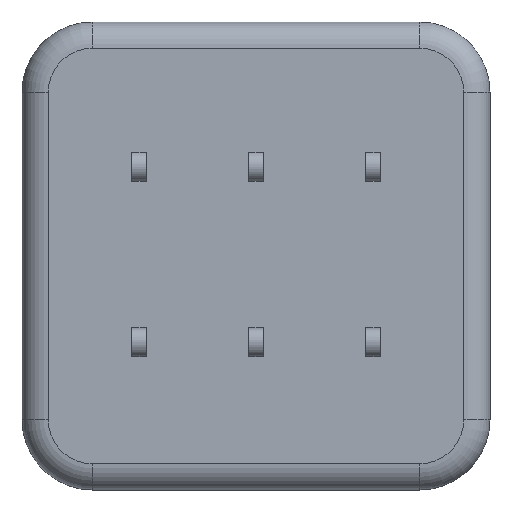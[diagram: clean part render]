
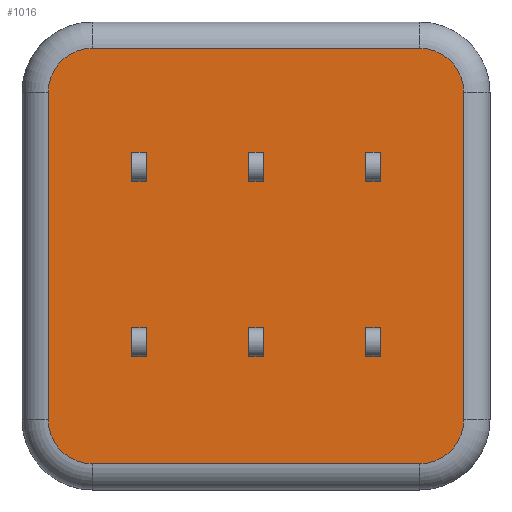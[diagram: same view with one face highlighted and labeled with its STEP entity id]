
A CAD part, front view. The second image highlights one B-rep face of the part: STEP entity #1016.
In plain terms, the highlighted planar face has unit normal (0, -1, 0).
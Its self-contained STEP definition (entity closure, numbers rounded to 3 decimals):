
#1=DIRECTION('',(0.,0.,-1.));
#2=VECTOR('',#1,1.);
#3=CARTESIAN_POINT('',(-0.25,-4.9,-2.45));
#4=LINE('',#3,#2);
#18=CARTESIAN_POINT('',(-5.6,-4.9,5.6));
#19=DIRECTION('',(0.,1.,0.));
#20=DIRECTION('',(-1.,0.,0.));
#21=AXIS2_PLACEMENT_3D('',#18,#19,#20);
#23=CARTESIAN_POINT('',(5.6,-4.9,5.6));
#24=DIRECTION('',(0.,1.,0.));
#25=DIRECTION('',(0.,0.,1.));
#26=AXIS2_PLACEMENT_3D('',#23,#24,#25);
#28=CARTESIAN_POINT('',(5.6,-4.9,-5.6));
#29=DIRECTION('',(0.,1.,0.));
#30=DIRECTION('',(1.,0.,0.));
#31=AXIS2_PLACEMENT_3D('',#28,#29,#30);
#33=CARTESIAN_POINT('',(-5.6,-4.9,-5.6));
#34=DIRECTION('',(0.,1.,0.));
#35=DIRECTION('',(0.,0.,-1.));
#36=AXIS2_PLACEMENT_3D('',#33,#34,#35);
#53=DIRECTION('',(0.,0.,-1.));
#54=VECTOR('',#53,11.2);
#55=CARTESIAN_POINT('',(-7.1,-4.9,5.6));
#56=LINE('',#55,#54);
#76=DIRECTION('',(1.,0.,0.));
#77=VECTOR('',#76,11.2);
#78=CARTESIAN_POINT('',(-5.6,-4.9,-7.1));
#79=LINE('',#78,#77);
#99=DIRECTION('',(0.,0.,1.));
#100=VECTOR('',#99,11.2);
#101=CARTESIAN_POINT('',(7.1,-4.9,-5.6));
#102=LINE('',#101,#100);
#122=DIRECTION('',(-1.,0.,0.));
#123=VECTOR('',#122,11.2);
#124=CARTESIAN_POINT('',(5.6,-4.9,7.1));
#125=LINE('',#124,#123);
#433=DIRECTION('',(0.,0.,-1.));
#434=VECTOR('',#433,1.);
#435=CARTESIAN_POINT('',(0.25,-4.9,-2.45));
#436=LINE('',#435,#434);
#442=DIRECTION('',(1.,0.,0.));
#443=VECTOR('',#442,0.5);
#444=CARTESIAN_POINT('',(-0.25,-4.9,-3.45));
#445=LINE('',#444,#443);
#458=DIRECTION('',(1.,0.,0.));
#459=VECTOR('',#458,0.5);
#460=CARTESIAN_POINT('',(-0.25,-4.9,-2.45));
#461=LINE('',#460,#459);
#466=DIRECTION('',(0.,0.,-1.));
#467=VECTOR('',#466,1.);
#468=CARTESIAN_POINT('',(-3.75,-4.9,-2.45));
#469=LINE('',#468,#467);
#475=DIRECTION('',(1.,0.,0.));
#476=VECTOR('',#475,0.5);
#477=CARTESIAN_POINT('',(-4.25,-4.9,-3.45));
#478=LINE('',#477,#476);
#483=DIRECTION('',(0.,0.,-1.));
#484=VECTOR('',#483,1.);
#485=CARTESIAN_POINT('',(-4.25,-4.9,-2.45));
#486=LINE('',#485,#484);
#500=DIRECTION('',(1.,0.,0.));
#501=VECTOR('',#500,0.5);
#502=CARTESIAN_POINT('',(-4.25,-4.9,-2.45));
#503=LINE('',#502,#501);
#516=DIRECTION('',(0.,0.,1.));
#517=VECTOR('',#516,1.);
#518=CARTESIAN_POINT('',(3.75,-4.9,-3.45));
#519=LINE('',#518,#517);
#525=DIRECTION('',(-1.,0.,0.));
#526=VECTOR('',#525,0.5);
#527=CARTESIAN_POINT('',(4.25,-4.9,-2.45));
#528=LINE('',#527,#526);
#533=DIRECTION('',(0.,0.,1.));
#534=VECTOR('',#533,1.);
#535=CARTESIAN_POINT('',(4.25,-4.9,-3.45));
#536=LINE('',#535,#534);
#550=DIRECTION('',(-1.,0.,0.));
#551=VECTOR('',#550,0.5);
#552=CARTESIAN_POINT('',(4.25,-4.9,-3.45));
#553=LINE('',#552,#551);
#566=DIRECTION('',(0.,0.,-1.));
#567=VECTOR('',#566,1.);
#568=CARTESIAN_POINT('',(0.25,-4.9,3.55));
#569=LINE('',#568,#567);
#575=DIRECTION('',(1.,0.,0.));
#576=VECTOR('',#575,0.5);
#577=CARTESIAN_POINT('',(-0.25,-4.9,2.55));
#578=LINE('',#577,#576);
#583=DIRECTION('',(0.,0.,-1.));
#584=VECTOR('',#583,1.);
#585=CARTESIAN_POINT('',(-0.25,-4.9,3.55));
#586=LINE('',#585,#584);
#600=DIRECTION('',(1.,0.,0.));
#601=VECTOR('',#600,0.5);
#602=CARTESIAN_POINT('',(-0.25,-4.9,3.55));
#603=LINE('',#602,#601);
#616=DIRECTION('',(0.,0.,-1.));
#617=VECTOR('',#616,1.);
#618=CARTESIAN_POINT('',(-3.75,-4.9,3.55));
#619=LINE('',#618,#617);
#625=DIRECTION('',(1.,0.,0.));
#626=VECTOR('',#625,0.5);
#627=CARTESIAN_POINT('',(-4.25,-4.9,2.55));
#628=LINE('',#627,#626);
#633=DIRECTION('',(0.,0.,-1.));
#634=VECTOR('',#633,1.);
#635=CARTESIAN_POINT('',(-4.25,-4.9,3.55));
#636=LINE('',#635,#634);
#650=DIRECTION('',(1.,0.,0.));
#651=VECTOR('',#650,0.5);
#652=CARTESIAN_POINT('',(-4.25,-4.9,3.55));
#653=LINE('',#652,#651);
#666=DIRECTION('',(0.,0.,1.));
#667=VECTOR('',#666,1.);
#668=CARTESIAN_POINT('',(3.75,-4.9,2.55));
#669=LINE('',#668,#667);
#675=DIRECTION('',(-1.,0.,0.));
#676=VECTOR('',#675,0.5);
#677=CARTESIAN_POINT('',(4.25,-4.9,3.55));
#678=LINE('',#677,#676);
#683=DIRECTION('',(0.,0.,1.));
#684=VECTOR('',#683,1.);
#685=CARTESIAN_POINT('',(4.25,-4.9,2.55));
#686=LINE('',#685,#684);
#700=DIRECTION('',(-1.,0.,0.));
#701=VECTOR('',#700,0.5);
#702=CARTESIAN_POINT('',(4.25,-4.9,2.55));
#703=LINE('',#702,#701);
#762=CARTESIAN_POINT('',(5.6,-4.9,7.1));
#763=CARTESIAN_POINT('',(7.1,-4.9,5.6));
#764=VERTEX_POINT('',#762);
#765=VERTEX_POINT('',#763);
#766=CARTESIAN_POINT('',(-7.1,-4.9,5.6));
#767=CARTESIAN_POINT('',(-5.6,-4.9,7.1));
#768=VERTEX_POINT('',#766);
#769=VERTEX_POINT('',#767);
#770=CARTESIAN_POINT('',(7.1,-4.9,-5.6));
#771=VERTEX_POINT('',#770);
#772=CARTESIAN_POINT('',(5.6,-4.9,-7.1));
#773=VERTEX_POINT('',#772);
#774=CARTESIAN_POINT('',(-5.6,-4.9,-7.1));
#775=VERTEX_POINT('',#774);
#776=CARTESIAN_POINT('',(-7.1,-4.9,-5.6));
#777=VERTEX_POINT('',#776);
#870=CARTESIAN_POINT('',(3.75,-4.9,2.55));
#871=CARTESIAN_POINT('',(3.75,-4.9,3.55));
#872=VERTEX_POINT('',#870);
#873=VERTEX_POINT('',#871);
#874=CARTESIAN_POINT('',(4.25,-4.9,2.55));
#875=CARTESIAN_POINT('',(4.25,-4.9,3.55));
#876=VERTEX_POINT('',#874);
#877=VERTEX_POINT('',#875);
#878=CARTESIAN_POINT('',(-3.75,-4.9,3.55));
#879=CARTESIAN_POINT('',(-3.75,-4.9,2.55));
#880=VERTEX_POINT('',#878);
#881=VERTEX_POINT('',#879);
#882=CARTESIAN_POINT('',(-4.25,-4.9,3.55));
#883=CARTESIAN_POINT('',(-4.25,-4.9,2.55));
#884=VERTEX_POINT('',#882);
#885=VERTEX_POINT('',#883);
#886=CARTESIAN_POINT('',(0.25,-4.9,3.55));
#887=CARTESIAN_POINT('',(0.25,-4.9,2.55));
#888=VERTEX_POINT('',#886);
#889=VERTEX_POINT('',#887);
#890=CARTESIAN_POINT('',(-0.25,-4.9,3.55));
#891=CARTESIAN_POINT('',(-0.25,-4.9,2.55));
#892=VERTEX_POINT('',#890);
#893=VERTEX_POINT('',#891);
#894=CARTESIAN_POINT('',(3.75,-4.9,-3.45));
#895=CARTESIAN_POINT('',(3.75,-4.9,-2.45));
#896=VERTEX_POINT('',#894);
#897=VERTEX_POINT('',#895);
#898=CARTESIAN_POINT('',(4.25,-4.9,-3.45));
#899=CARTESIAN_POINT('',(4.25,-4.9,-2.45));
#900=VERTEX_POINT('',#898);
#901=VERTEX_POINT('',#899);
#902=CARTESIAN_POINT('',(-3.75,-4.9,-2.45));
#903=CARTESIAN_POINT('',(-3.75,-4.9,-3.45));
#904=VERTEX_POINT('',#902);
#905=VERTEX_POINT('',#903);
#906=CARTESIAN_POINT('',(-4.25,-4.9,-2.45));
#907=CARTESIAN_POINT('',(-4.25,-4.9,-3.45));
#908=VERTEX_POINT('',#906);
#909=VERTEX_POINT('',#907);
#910=CARTESIAN_POINT('',(0.25,-4.9,-2.45));
#911=CARTESIAN_POINT('',(0.25,-4.9,-3.45));
#912=VERTEX_POINT('',#910);
#913=VERTEX_POINT('',#911);
#914=CARTESIAN_POINT('',(-0.25,-4.9,-2.45));
#915=CARTESIAN_POINT('',(-0.25,-4.9,-3.45));
#916=VERTEX_POINT('',#914);
#917=VERTEX_POINT('',#915);
#934=CARTESIAN_POINT('',(0.,-4.9,0.));
#935=DIRECTION('',(0.,-1.,0.));
#936=DIRECTION('',(1.,0.,0.));
#937=AXIS2_PLACEMENT_3D('',#934,#935,#936);
#938=PLANE('',#937);
#940=ORIENTED_EDGE('',*,*,#939,.T.);
#942=ORIENTED_EDGE('',*,*,#941,.F.);
#944=ORIENTED_EDGE('',*,*,#943,.T.);
#946=ORIENTED_EDGE('',*,*,#945,.F.);
#948=ORIENTED_EDGE('',*,*,#947,.T.);
#950=ORIENTED_EDGE('',*,*,#949,.F.);
#952=ORIENTED_EDGE('',*,*,#951,.T.);
#954=ORIENTED_EDGE('',*,*,#953,.F.);
#955=EDGE_LOOP('',(#940,#942,#944,#946,#948,#950,#952,#954));
#956=FACE_OUTER_BOUND('',#955,.F.);
#958=ORIENTED_EDGE('',*,*,#957,.F.);
#960=ORIENTED_EDGE('',*,*,#959,.F.);
#961=ORIENTED_EDGE('',*,*,#923,.T.);
#963=ORIENTED_EDGE('',*,*,#962,.T.);
#964=EDGE_LOOP('',(#958,#960,#961,#963));
#965=FACE_BOUND('',#964,.F.);
#967=ORIENTED_EDGE('',*,*,#966,.F.);
#969=ORIENTED_EDGE('',*,*,#968,.F.);
#971=ORIENTED_EDGE('',*,*,#970,.T.);
#973=ORIENTED_EDGE('',*,*,#972,.T.);
#974=EDGE_LOOP('',(#967,#969,#971,#973));
#975=FACE_BOUND('',#974,.F.);
#977=ORIENTED_EDGE('',*,*,#976,.F.);
#979=ORIENTED_EDGE('',*,*,#978,.F.);
#981=ORIENTED_EDGE('',*,*,#980,.T.);
#983=ORIENTED_EDGE('',*,*,#982,.T.);
#984=EDGE_LOOP('',(#977,#979,#981,#983));
#985=FACE_BOUND('',#984,.F.);
#987=ORIENTED_EDGE('',*,*,#986,.F.);
#989=ORIENTED_EDGE('',*,*,#988,.F.);
#991=ORIENTED_EDGE('',*,*,#990,.T.);
#993=ORIENTED_EDGE('',*,*,#992,.T.);
#994=EDGE_LOOP('',(#987,#989,#991,#993));
#995=FACE_BOUND('',#994,.F.);
#997=ORIENTED_EDGE('',*,*,#996,.F.);
#999=ORIENTED_EDGE('',*,*,#998,.F.);
#1001=ORIENTED_EDGE('',*,*,#1000,.T.);
#1003=ORIENTED_EDGE('',*,*,#1002,.T.);
#1004=EDGE_LOOP('',(#997,#999,#1001,#1003));
#1005=FACE_BOUND('',#1004,.F.);
#1007=ORIENTED_EDGE('',*,*,#1006,.F.);
#1009=ORIENTED_EDGE('',*,*,#1008,.F.);
#1011=ORIENTED_EDGE('',*,*,#1010,.T.);
#1013=ORIENTED_EDGE('',*,*,#1012,.T.);
#1014=EDGE_LOOP('',(#1007,#1009,#1011,#1013));
#1015=FACE_BOUND('',#1014,.F.);
#1016=ADVANCED_FACE('',(#956,#965,#975,#985,#995,#1005,#1015),#938,.T.);
#22=CIRCLE('',#21,1.5);
#27=CIRCLE('',#26,1.5);
#32=CIRCLE('',#31,1.5);
#37=CIRCLE('',#36,1.5);
#923=EDGE_CURVE('',#916,#917,#4,.T.);
#939=EDGE_CURVE('',#768,#769,#22,.T.);
#941=EDGE_CURVE('',#764,#769,#125,.T.);
#943=EDGE_CURVE('',#764,#765,#27,.T.);
#945=EDGE_CURVE('',#771,#765,#102,.T.);
#947=EDGE_CURVE('',#771,#773,#32,.T.);
#949=EDGE_CURVE('',#775,#773,#79,.T.);
#951=EDGE_CURVE('',#775,#777,#37,.T.);
#953=EDGE_CURVE('',#768,#777,#56,.T.);
#957=EDGE_CURVE('',#912,#913,#436,.T.);
#959=EDGE_CURVE('',#916,#912,#461,.T.);
#962=EDGE_CURVE('',#917,#913,#445,.T.);
#966=EDGE_CURVE('',#904,#905,#469,.T.);
#968=EDGE_CURVE('',#908,#904,#503,.T.);
#970=EDGE_CURVE('',#908,#909,#486,.T.);
#972=EDGE_CURVE('',#909,#905,#478,.T.);
#976=EDGE_CURVE('',#896,#897,#519,.T.);
#978=EDGE_CURVE('',#900,#896,#553,.T.);
#980=EDGE_CURVE('',#900,#901,#536,.T.);
#982=EDGE_CURVE('',#901,#897,#528,.T.);
#986=EDGE_CURVE('',#888,#889,#569,.T.);
#988=EDGE_CURVE('',#892,#888,#603,.T.);
#990=EDGE_CURVE('',#892,#893,#586,.T.);
#992=EDGE_CURVE('',#893,#889,#578,.T.);
#996=EDGE_CURVE('',#880,#881,#619,.T.);
#998=EDGE_CURVE('',#884,#880,#653,.T.);
#1000=EDGE_CURVE('',#884,#885,#636,.T.);
#1002=EDGE_CURVE('',#885,#881,#628,.T.);
#1006=EDGE_CURVE('',#872,#873,#669,.T.);
#1008=EDGE_CURVE('',#876,#872,#703,.T.);
#1010=EDGE_CURVE('',#876,#877,#686,.T.);
#1012=EDGE_CURVE('',#877,#873,#678,.T.);
